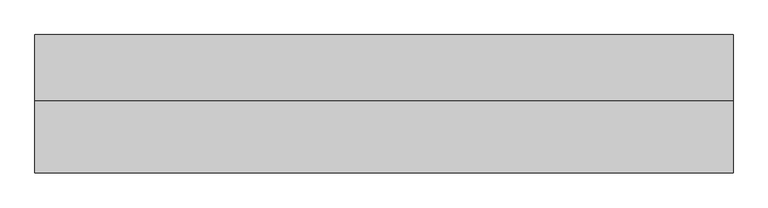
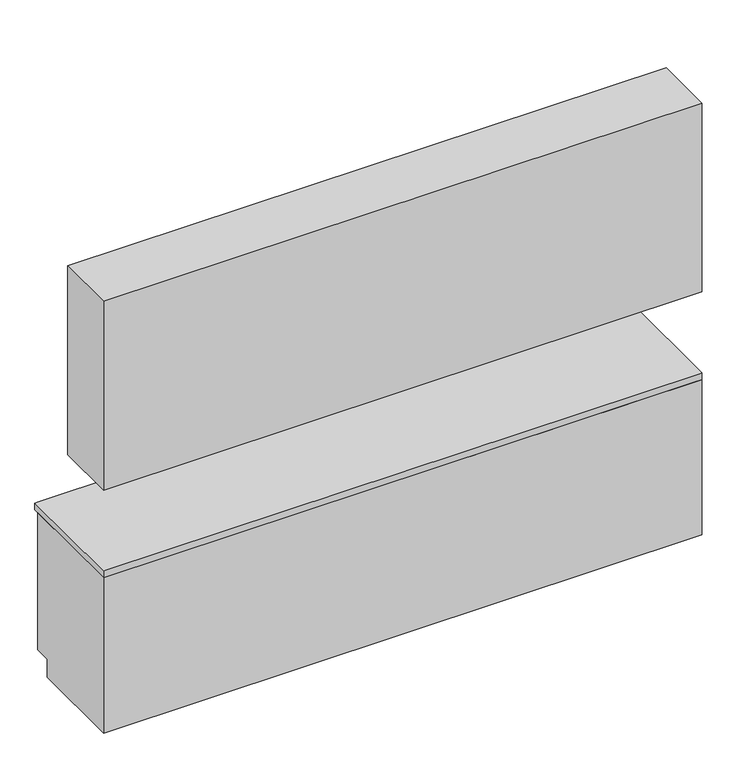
"""IFC4 building model written with IfcOpenShell, lengths in millimetres: furniture geometry, Casework Schematic - Base and Upper : Casework Schematic - Base and Upper."""

from ifc_helpers import new_model, si_unit, frame, origin, place, context, project, spatial, polyline, outline, extrude, faceted_brep, source, transform, mapped, element, save


def furniture_1ed8da18(model_context):
    return source(origin(), model_context, "Body", "SolidModel", [
        extrude(outline(polyline([(0.0, 0.0), (0.0, 330.2), (3200.4, 330.2), (3200.4, 0.0), (0.0, 0.0)])), frame((0.0, 0.0, 1371.6), z_axis=(0.0, 0.0, 1.0), x_axis=(1.0, 0.0, 0.0)), (0.0, 0.0, 1.0), 1066.8),
        extrude(outline(polyline([(0.0, 876.3), (609.6, 876.3), (609.6, 101.6), (520.7, 101.6), (520.7, 0.0), (0.0, 0.0), (0.0, 876.3)])), frame((0.0, 0.0, 0.0), z_axis=(1.0, 0.0, 0.0), x_axis=(0.0, 1.0, 0.0)), (0.0, 0.0, 1.0), 3200.4),
        faceted_brep([(3200.4, 0.0, 876.3), (3187.7, 0.0, 876.3), (3162.3, 0.0, 876.3), (38.1, 0.0, 876.3), (12.7, 0.0, 876.3), (0.0, 0.0, 876.3), (0.0, 12.7, 876.3), (0.0, 635.0, 876.3), (12.7, 635.0, 876.3), (38.1, 635.0, 876.3), (3162.3, 635.0, 876.3), (3187.7, 635.0, 876.3), (3200.4, 635.0, 876.3), (3200.4, 12.7, 876.3), (3200.4, 635.0, 914.4), (3187.7, 635.0, 914.4), (12.7, 635.0, 914.4), (0.0, 635.0, 914.4), (0.0, 12.7, 914.4), (0.0, 0.0, 914.4), (12.7, 0.0, 914.4), (3187.7, 0.0, 914.4), (3200.4, 0.0, 914.4), (3200.4, 12.7, 914.4), (0.0, 635.0, 889.0), (3200.4, 635.0, 889.0), (0.0, 0.0, 889.0), (3200.4, 0.0, 889.0)], [[[0, 1, 2, 3, 4, 5, 6, 7, 8, 9, 10, 11, 12, 13]], [[14, 15, 16, 17, 18, 19, 20, 21, 22, 23]], [[12, 11, 10, 9, 8, 7, 24, 17, 16, 15, 14, 25]], [[6, 5, 26, 19, 18, 17, 24, 7]], [[1, 0, 27, 22, 21, 20, 19, 26, 5, 4, 3, 2]], [[27, 0, 13, 12, 25, 14, 23, 22]]]),
    ])


if __name__ == "__main__":
    model = new_model("IFC4")
    model_context = context("Model", 3, world=origin())
    ifc_project = project(units=[si_unit("LENGTHUNIT", "METRE", prefix="MILLI")], contexts=[model_context])
    site = spatial("IfcSite", under=ifc_project)
    building = spatial("IfcBuilding", under=site)
    placement = place(None, origin())
    furniture_shape = furniture_1ed8da18(model_context)
    element("IfcFurniture", 1, ObjectType="Casework Schematic - Base and Upper : Casework Schematic - Base and Upper", at=placement, inside=building, context=model_context, shape_type="MappedRepresentation", body=[
        mapped(furniture_shape, transform((0.0, 0.0, 0.0), x_axis=(1.0, 0.0, 0.0), y_axis=(0.0, 1.0, 0.0), z_axis=(0.0, 0.0, 1.0))),
    ])
    save(model, "model.ifc")
